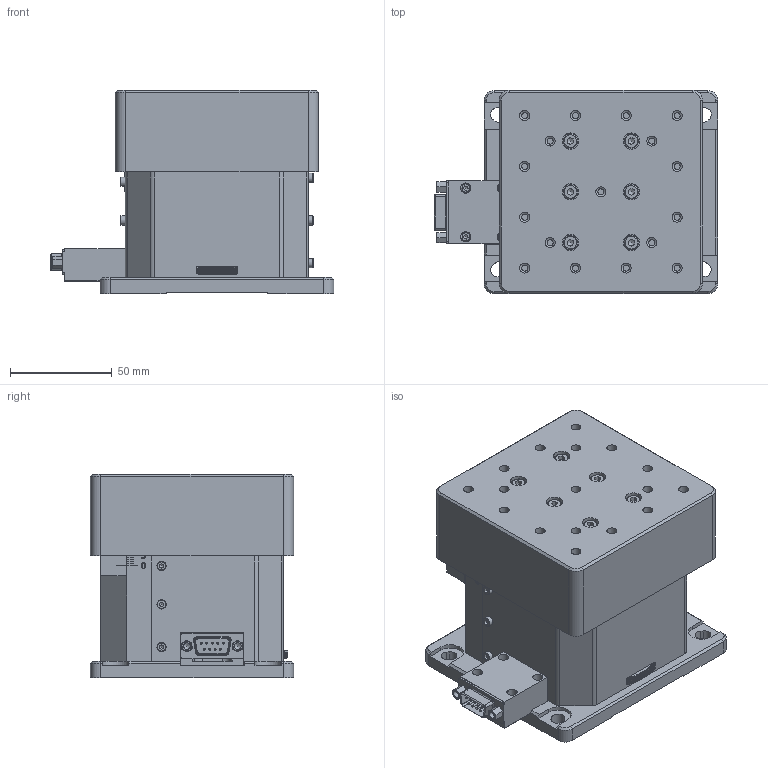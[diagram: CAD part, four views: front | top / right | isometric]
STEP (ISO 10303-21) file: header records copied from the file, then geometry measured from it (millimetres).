
FILE_DESCRIPTION((''),'2;1');
FILE_NAME('\\RAMUNASZ-PC\Ramunas\schemos\08\8MVT100-25\step\8MVT100-25-1.stp','2013-06-07T11:29:41',('Darius.M'),(''),'Autodesk Inventor 2013','Autodesk Inventor 2013','');
FILE_SCHEMA(('AUTOMOTIVE_DESIGN { 1 0 10303 214 1 1 1 1 }'));
Length unit declared in the file: millimetre
Products named in the file (1): 8MVT100-25-1-internetui
Bounding box: 139.5 x 100.01 x 100 mm (x, y, z)
Volume: 856767.6 mm3; surface area: 113374.7 mm2
Topology: 1 solids, 14 shells, 1142 faces, 2982 edges, 1934 vertices
Faces by surface type: plane 686, cylinder 232, bspline 111, cone 64, torus 40, sphere 9
Full cylindrical faces by diameter (mm): 1 x9, 2.013 x5, 2.459 x4, 2.5 x8, 2.8 x4, 3 x21, 3.302 x2, 4 x12, 4.5 x22, 4.917 x17, 5 x4, 7 x12, 8 x12
Entity records: 35022 total; most frequent: CARTESIAN_POINT 8638, ORIENTED_EDGE 5334, DIRECTION 4867, EDGE_CURVE 2667, VERTEX_POINT 1840, VECTOR 1743, LINE 1743, AXIS2_PLACEMENT_3D 1562
